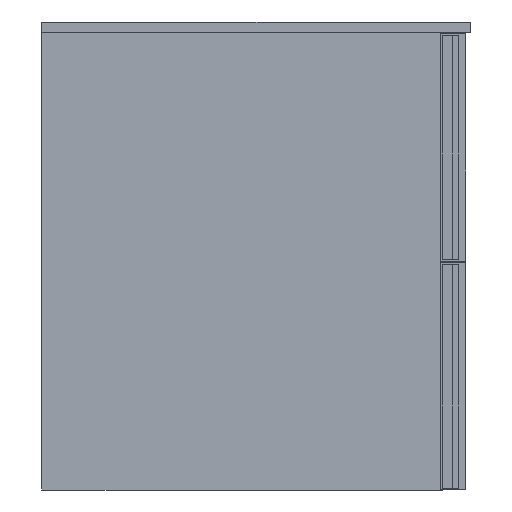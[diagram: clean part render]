
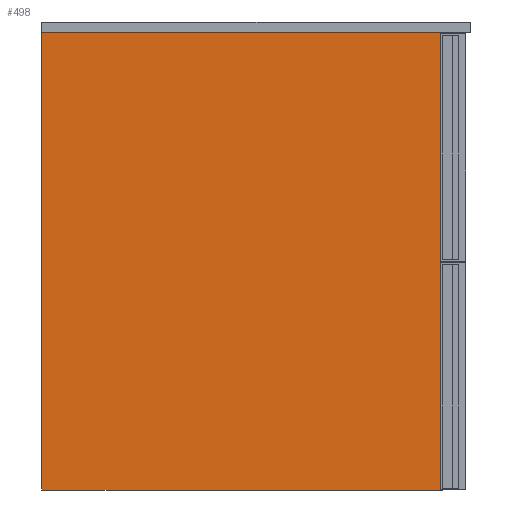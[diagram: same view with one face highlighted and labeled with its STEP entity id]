
A CAD part, left-side view. The second image highlights one B-rep face of the part: STEP entity #498.
In plain terms, the highlighted planar face has unit normal (-1, 0, 0).
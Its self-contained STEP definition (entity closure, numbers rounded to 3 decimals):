
#235 = VECTOR ( 'NONE', #13750, 1000. ) ;
#301 = LINE ( 'NONE', #9753, #8826 ) ;
#498 = ADVANCED_FACE ( 'NONE', ( #2996 ), #7395, .F. ) ;
#787 = CARTESIAN_POINT ( 'NONE',  ( 4768.569, -6638.259, 0. ) ) ;
#875 = DIRECTION ( 'NONE',  ( 0., 0., -1. ) ) ;
#944 = EDGE_CURVE ( 'NONE', #6174, #12163, #301, .T. ) ;
#1135 = CARTESIAN_POINT ( 'NONE',  ( 4768.569, -6168.259, 0. ) ) ;
#1514 = AXIS2_PLACEMENT_3D ( 'NONE', #6270, #12845, #875 ) ;
#1875 = ORIENTED_EDGE ( 'NONE', *, *, #4667, .F. ) ;
#2251 = DIRECTION ( 'NONE',  ( 0., 1., 0. ) ) ;
#2739 = CARTESIAN_POINT ( 'NONE',  ( 4768.569, -6638.259, 270. ) ) ;
#2996 = FACE_OUTER_BOUND ( 'NONE', #11152, .T. ) ;
#3234 = LINE ( 'NONE', #14087, #13839 ) ;
#3488 = DIRECTION ( 'NONE',  ( 0., 0., 1. ) ) ;
#4667 = EDGE_CURVE ( 'NONE', #10938, #6174, #3234, .T. ) ;
#4884 = LINE ( 'NONE', #2739, #13684 ) ;
#4913 = LINE ( 'NONE', #9253, #235 ) ;
#6174 = VERTEX_POINT ( 'NONE', #1135 ) ;
#6270 = CARTESIAN_POINT ( 'NONE',  ( 4768.569, -6403.259, 270. ) ) ;
#6649 = ORIENTED_EDGE ( 'NONE', *, *, #944, .F. ) ;
#6733 = ORIENTED_EDGE ( 'NONE', *, *, #10393, .F. ) ;
#7395 = PLANE ( 'NONE',  #1514 ) ;
#7719 = CARTESIAN_POINT ( 'NONE',  ( 4768.569, -6638.259, 540. ) ) ;
#8017 = DIRECTION ( 'NONE',  ( 0., 0., -1. ) ) ;
#8826 = VECTOR ( 'NONE', #3488, 1000. ) ;
#9253 = CARTESIAN_POINT ( 'NONE',  ( 4768.569, -6403.259, 540. ) ) ;
#9753 = CARTESIAN_POINT ( 'NONE',  ( 4768.569, -6168.259, 270. ) ) ;
#9844 = VERTEX_POINT ( 'NONE', #7719 ) ;
#10393 = EDGE_CURVE ( 'NONE', #12163, #9844, #4913, .T. ) ;
#10632 = ORIENTED_EDGE ( 'NONE', *, *, #13261, .F. ) ;
#10938 = VERTEX_POINT ( 'NONE', #787 ) ;
#11152 = EDGE_LOOP ( 'NONE', ( #6733, #6649, #1875, #10632 ) ) ;
#11186 = CARTESIAN_POINT ( 'NONE',  ( 4768.569, -6168.259, 540. ) ) ;
#12163 = VERTEX_POINT ( 'NONE', #11186 ) ;
#12845 = DIRECTION ( 'NONE',  ( 1., 0., 0. ) ) ;
#13261 = EDGE_CURVE ( 'NONE', #9844, #10938, #4884, .T. ) ;
#13684 = VECTOR ( 'NONE', #8017, 1000. ) ;
#13750 = DIRECTION ( 'NONE',  ( 0., -1., 0. ) ) ;
#13839 = VECTOR ( 'NONE', #2251, 1000. ) ;
#14087 = CARTESIAN_POINT ( 'NONE',  ( 4768.569, -6403.259, 0. ) ) ;
